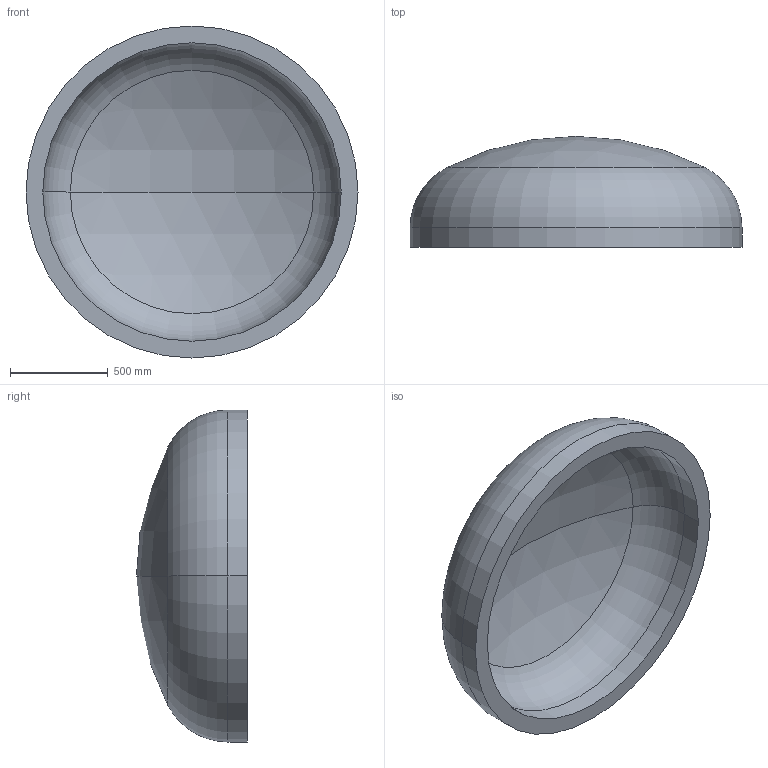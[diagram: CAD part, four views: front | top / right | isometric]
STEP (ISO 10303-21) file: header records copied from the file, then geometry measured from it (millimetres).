
FILE_DESCRIPTION (( 'STEP AP203' ), '1' );
FILE_NAME ('DIN 28013 Korbbogenform_-_Boden DIN 28013 - 1700 x 100 - I - s=86.step', '2016-07-01T12:04:36', ( '' ), ( '' ), 'SwSTEP 2.0', 'SolidWorks 2013', '' );
FILE_SCHEMA (( 'CONFIG_CONTROL_DESIGN' ));
Length unit declared in the file: millimetre
Products named in the file (1): DIN 28013 Korbbogenform_-_Boden DIN 28013 - 1700 x 100 - I - s=86
Bounding box: 1700 x 568.26 x 1700 mm (x, y, z)
Volume: 296594710 mm3; surface area: 7349105.3 mm2
Topology: 1 solids, 1 shells, 13 faces, 24 edges, 14 vertices
Faces by surface type: torus 4, cylinder 4, sphere 4, plane 1
Entity records: 407 total; most frequent: DIRECTION 72, CARTESIAN_POINT 52, ORIENTED_EDGE 48, AXIS2_PLACEMENT_3D 34, EDGE_CURVE 24, CIRCLE 20, EDGE_LOOP 14, VERTEX_POINT 14
